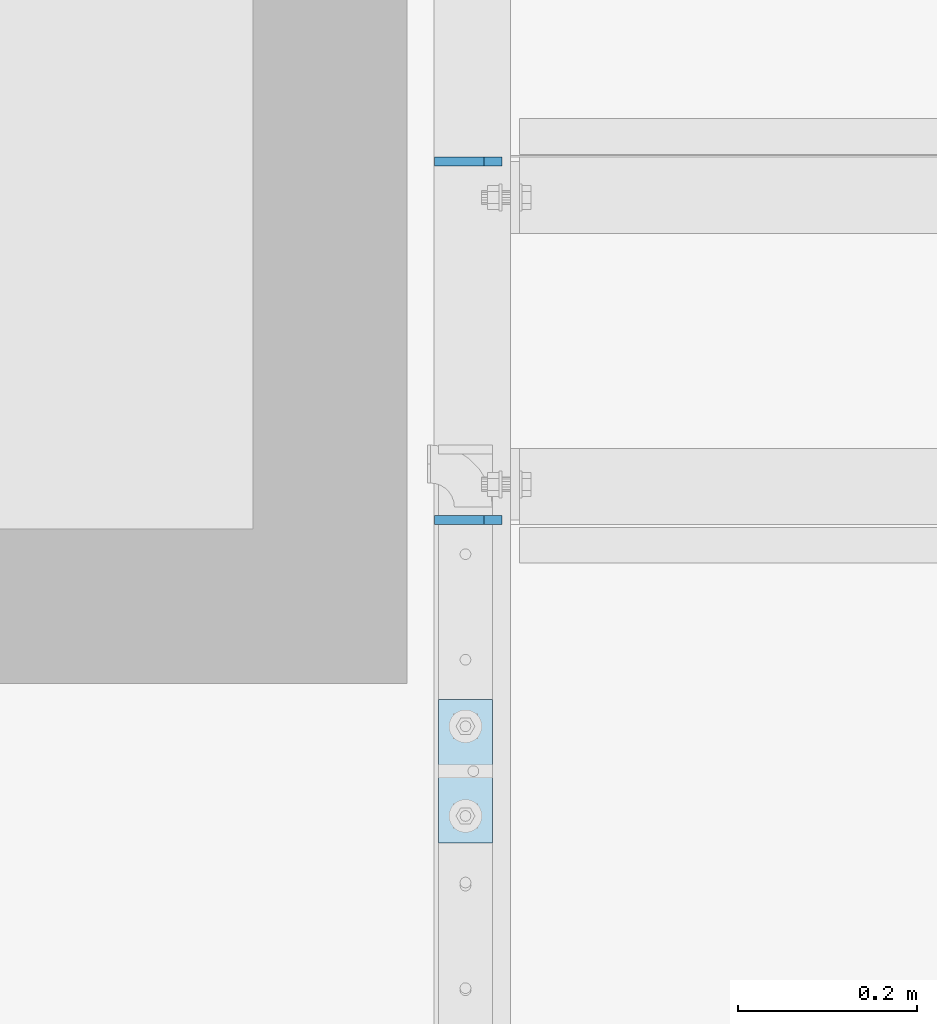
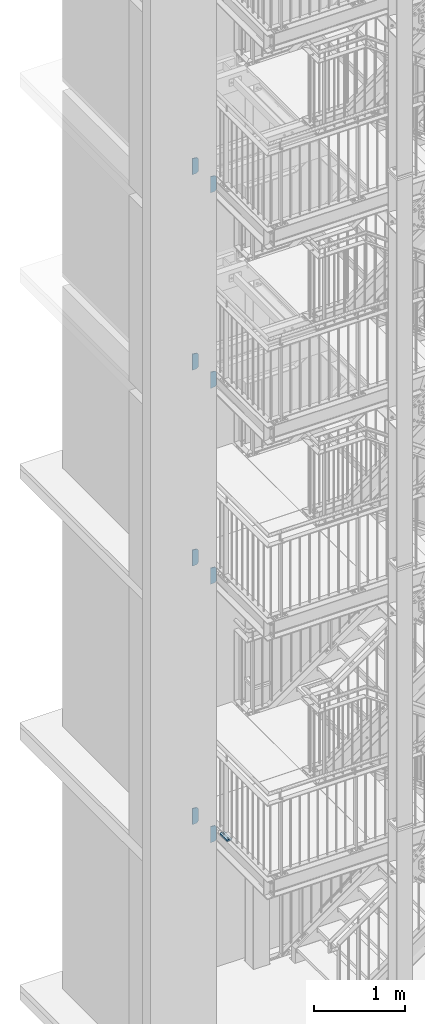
# One storey, part 159 of 831: 9 plates, 18 openings.
"""IFC2X3 building model written with IfcOpenShell, lengths in millimetres."""

from ifc_helpers import new_model, entity, si_unit, converted_unit, point, frame, frame_2d, origin, origin_with_axes, place, context, project, spatial, polyline, circle_curve, line_curve, trimmed, segment, composite_curve, outline, extrude, material, layer, layer_set, element, save


model = new_model("IFC2X3")

# Units and contexts
model_context = context("Model", 3, precision=1e-09, world=origin_with_axes())
ifc_project = project(units=[si_unit("LENGTHUNIT", "METRE", prefix="MILLI"), si_unit("AREAUNIT", "SQUARE_METRE"), si_unit("VOLUMEUNIT", "CUBIC_METRE"), converted_unit("PLANEANGLEUNIT", "DEGREE", entity("IfcPlaneAngleMeasure", 0.01745329), si_unit("PLANEANGLEUNIT", "RADIAN"), dimensions=[0, 0, 0, 0, 0, 0, 0])], contexts=[model_context])

# Site, building, storey
site_placement = place(None, origin_with_axes())
site = spatial("IfcSite", under=ifc_project, at=site_placement, Name="Site", CompositionType="ELEMENT")
building_placement = place(site_placement, origin_with_axes())
building = spatial("IfcBuilding", under=site, at=building_placement, Name="Struktur 1", CompositionType="ELEMENT")
storey_placement = place(building_placement, origin_with_axes())
storey = spatial("IfcBuildingStorey", under=building, at=storey_placement, Name="Default Storey", CompositionType="ELEMENT", Elevation=0.0)

# Plate, openings
ifc_material = material(Name="S235JR")
ifc_layer_1 = layer(ifc_material, 10.0)
ifc_layer_set_1 = layer_set([ifc_layer_1], Name="S235JR")
plate_1_placement = place(None, frame((3312.213402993, 5746.736971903, 3829.855161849), z_axis=(0.0, -1.0, 0.0), x_axis=(-0.996815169, 0.0, 0.079746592)))
plate_1 = element("IfcPlate", 1, at=plate_1_placement, inside=storey, material=ifc_layer_set_1, Name="Stiffener#1", ObjectType="Stiffener#1", context=model_context, shape_type="SweptSolid", body=[
    extrude(outline(polyline([(0.0, 0.0), (75.239625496, 0.0), (57.877952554, 217.017159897), (-16.404697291, 205.05517107), (0.0, 0.0)])), origin_with_axes(), (0.0, 0.0, 1.0), 10.0),
])
opening_1_placement = place(plate_1_placement, frame((0.0, 0.0, -0.01), z_axis=(0.0, 0.0, 1.0), x_axis=(1.0, 0.0, 0.0)))
element("IfcOpeningElement", 2, at=opening_1_placement, cuts=plate_1, ObjectType="Opening", context=model_context, shape_type="SweptSolid", body=[
    extrude(outline(polyline([(-16.404697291, 205.05517107), (-14.809765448, 185.118867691), (3.34092195, 208.23487558), (-16.404697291, 205.05517107)])), origin(), (0.0, 0.0, 1.0), 10.02),
])
opening_2_placement = place(plate_1_placement, frame((0.0, 0.0, -0.01), z_axis=(0.0, 0.0, 1.0), x_axis=(1.0, 0.0, 0.0)))
element("IfcOpeningElement", 3, at=opening_2_placement, cuts=plate_1, ObjectType="Opening", context=model_context, shape_type="SweptSolid", body=[
    extrude(outline(polyline([(0.0, 0.0), (20.0, 0.0), (-1.594931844, 19.936303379), (0.0, 0.0)])), origin(), (0.0, 0.0, 1.0), 10.02),
])

plate_2_placement = place(None, frame((3312.213402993, 6146.736971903, 3829.855161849), z_axis=(0.0, -1.0, 0.0), x_axis=(-0.996815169, 0.0, 0.079746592)))
plate_2 = element("IfcPlate", 4, at=plate_2_placement, inside=storey, material=ifc_layer_set_1, Name="Stiffener#1", ObjectType="Stiffener#1", context=model_context, shape_type="SweptSolid", body=[
    extrude(outline(polyline([(0.0, 0.0), (75.239625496, 0.0), (57.877952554, 217.017159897), (-16.404697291, 205.05517107), (0.0, 0.0)])), origin_with_axes(), (0.0, 0.0, 1.0), 10.0),
])
opening_3_placement = place(plate_2_placement, frame((0.0, 0.0, -0.01), z_axis=(0.0, 0.0, 1.0), x_axis=(1.0, 0.0, 0.0)))
element("IfcOpeningElement", 5, at=opening_3_placement, cuts=plate_2, ObjectType="Opening", context=model_context, shape_type="SweptSolid", body=[
    extrude(outline(polyline([(-16.404697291, 205.05517107), (-14.809765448, 185.118867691), (3.34092195, 208.23487558), (-16.404697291, 205.05517107)])), origin(), (0.0, 0.0, 1.0), 10.02),
])
opening_4_placement = place(plate_2_placement, frame((0.0, 0.0, -0.01), z_axis=(0.0, 0.0, 1.0), x_axis=(1.0, 0.0, 0.0)))
element("IfcOpeningElement", 6, at=opening_4_placement, cuts=plate_2, ObjectType="Opening", context=model_context, shape_type="SweptSolid", body=[
    extrude(outline(polyline([(0.0, 0.0), (20.0, 0.0), (-1.594931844, 19.936303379), (0.0, 0.0)])), origin(), (0.0, 0.0, 1.0), 10.02),
])

plate_3_placement = place(None, frame((3312.213402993, 5746.736971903, 7302.855161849), z_axis=(0.0, -1.0, 0.0), x_axis=(-0.996815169, 0.0, 0.079746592)))
plate_3 = element("IfcPlate", 7, at=plate_3_placement, inside=storey, material=ifc_layer_set_1, Name="Stiffener#1", ObjectType="Stiffener#1", context=model_context, shape_type="SweptSolid", body=[
    extrude(outline(polyline([(0.0, 0.0), (75.239625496, 0.0), (57.877952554, 217.017159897), (-16.404697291, 205.05517107), (0.0, 0.0)])), origin_with_axes(), (0.0, 0.0, 1.0), 10.0),
])
opening_5_placement = place(plate_3_placement, frame((0.0, 0.0, -0.01), z_axis=(0.0, 0.0, 1.0), x_axis=(1.0, 0.0, 0.0)))
element("IfcOpeningElement", 8, at=opening_5_placement, cuts=plate_3, ObjectType="Opening", context=model_context, shape_type="SweptSolid", body=[
    extrude(outline(polyline([(-16.404697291, 205.05517107), (-14.809765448, 185.118867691), (3.34092195, 208.23487558), (-16.404697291, 205.05517107)])), origin(), (0.0, 0.0, 1.0), 10.02),
])
opening_6_placement = place(plate_3_placement, frame((0.0, 0.0, -0.01), z_axis=(0.0, 0.0, 1.0), x_axis=(1.0, 0.0, 0.0)))
element("IfcOpeningElement", 9, at=opening_6_placement, cuts=plate_3, ObjectType="Opening", context=model_context, shape_type="SweptSolid", body=[
    extrude(outline(polyline([(0.0, 0.0), (20.0, 0.0), (-1.594931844, 19.936303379), (0.0, 0.0)])), origin(), (0.0, 0.0, 1.0), 10.02),
])

plate_4_placement = place(None, frame((3312.213402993, 6146.736971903, 7302.855161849), z_axis=(0.0, -1.0, 0.0), x_axis=(-0.996815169, 0.0, 0.079746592)))
plate_4 = element("IfcPlate", 10, at=plate_4_placement, inside=storey, material=ifc_layer_set_1, Name="Stiffener#1", ObjectType="Stiffener#1", context=model_context, shape_type="SweptSolid", body=[
    extrude(outline(polyline([(0.0, 0.0), (75.239625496, 0.0), (57.877952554, 217.017159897), (-16.404697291, 205.05517107), (0.0, 0.0)])), origin_with_axes(), (0.0, 0.0, 1.0), 10.0),
])
opening_7_placement = place(plate_4_placement, frame((0.0, 0.0, -0.01), z_axis=(0.0, 0.0, 1.0), x_axis=(1.0, 0.0, 0.0)))
element("IfcOpeningElement", 11, at=opening_7_placement, cuts=plate_4, ObjectType="Opening", context=model_context, shape_type="SweptSolid", body=[
    extrude(outline(polyline([(-16.404697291, 205.05517107), (-14.809765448, 185.118867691), (3.34092195, 208.23487558), (-16.404697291, 205.05517107)])), origin(), (0.0, 0.0, 1.0), 10.02),
])
opening_8_placement = place(plate_4_placement, frame((0.0, 0.0, -0.01), z_axis=(0.0, 0.0, 1.0), x_axis=(1.0, 0.0, 0.0)))
element("IfcOpeningElement", 12, at=opening_8_placement, cuts=plate_4, ObjectType="Opening", context=model_context, shape_type="SweptSolid", body=[
    extrude(outline(polyline([(0.0, 0.0), (20.0, 0.0), (-1.594931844, 19.936303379), (0.0, 0.0)])), origin(), (0.0, 0.0, 1.0), 10.02),
])

plate_5_placement = place(None, frame((3312.213402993, 6146.736971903, 9934.855161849), z_axis=(0.0, -1.0, 0.0), x_axis=(-0.996815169, 0.0, 0.079746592)))
plate_5 = element("IfcPlate", 13, at=plate_5_placement, inside=storey, material=ifc_layer_set_1, Name="Stiffener#1", ObjectType="Stiffener#1", context=model_context, shape_type="SweptSolid", body=[
    extrude(outline(polyline([(0.0, 0.0), (75.239625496, 0.0), (57.877952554, 217.017159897), (-16.404697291, 205.05517107), (0.0, 0.0)])), origin_with_axes(), (0.0, 0.0, 1.0), 10.0),
])
opening_9_placement = place(plate_5_placement, frame((0.0, 0.0, -0.01), z_axis=(0.0, 0.0, 1.0), x_axis=(1.0, 0.0, 0.0)))
element("IfcOpeningElement", 14, at=opening_9_placement, cuts=plate_5, ObjectType="Opening", context=model_context, shape_type="SweptSolid", body=[
    extrude(outline(polyline([(-16.404697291, 205.05517107), (-14.809765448, 185.118867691), (3.34092195, 208.23487558), (-16.404697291, 205.05517107)])), origin(), (0.0, 0.0, 1.0), 10.02),
])
opening_10_placement = place(plate_5_placement, frame((0.0, 0.0, -0.01), z_axis=(0.0, 0.0, 1.0), x_axis=(1.0, 0.0, 0.0)))
element("IfcOpeningElement", 15, at=opening_10_placement, cuts=plate_5, ObjectType="Opening", context=model_context, shape_type="SweptSolid", body=[
    extrude(outline(polyline([(0.0, 0.0), (20.0, 0.0), (-1.594931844, 19.936303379), (0.0, 0.0)])), origin(), (0.0, 0.0, 1.0), 10.02),
])

plate_6_placement = place(None, frame((3312.213402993, 5746.736971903, 9934.855161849), z_axis=(0.0, -1.0, 0.0), x_axis=(-0.996815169, 0.0, 0.079746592)))
plate_6 = element("IfcPlate", 16, at=plate_6_placement, inside=storey, material=ifc_layer_set_1, Name="Stiffener#1", ObjectType="Stiffener#1", context=model_context, shape_type="SweptSolid", body=[
    extrude(outline(polyline([(0.0, 0.0), (75.239625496, 0.0), (57.877952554, 217.017159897), (-16.404697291, 205.05517107), (0.0, 0.0)])), origin_with_axes(), (0.0, 0.0, 1.0), 10.0),
])
opening_11_placement = place(plate_6_placement, frame((0.0, 0.0, -0.01), z_axis=(0.0, 0.0, 1.0), x_axis=(1.0, 0.0, 0.0)))
element("IfcOpeningElement", 17, at=opening_11_placement, cuts=plate_6, ObjectType="Opening", context=model_context, shape_type="SweptSolid", body=[
    extrude(outline(polyline([(-16.404697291, 205.05517107), (-14.809765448, 185.118867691), (3.34092195, 208.23487558), (-16.404697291, 205.05517107)])), origin(), (0.0, 0.0, 1.0), 10.02),
])
opening_12_placement = place(plate_6_placement, frame((0.0, 0.0, -0.01), z_axis=(0.0, 0.0, 1.0), x_axis=(1.0, 0.0, 0.0)))
element("IfcOpeningElement", 18, at=opening_12_placement, cuts=plate_6, ObjectType="Opening", context=model_context, shape_type="SweptSolid", body=[
    extrude(outline(polyline([(0.0, 0.0), (20.0, 0.0), (-1.594931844, 19.936303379), (0.0, 0.0)])), origin(), (0.0, 0.0, 1.0), 10.02),
])

ifc_layer_2 = layer(ifc_material, 20.0)
ifc_layer_set_2 = layer_set([ifc_layer_2], Name="S235JR")
plate_7_placement = place(None, frame((3241.713402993, 5541.738971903, 3847.0), z_axis=(0.0, 0.0, 1.0), x_axis=(0.0, -1.0, 0.0)))
plate_7 = element("IfcPlate", 19, at=plate_7_placement, inside=storey, material=ifc_layer_set_2, Name="Plate#513", ObjectType="Plate#513", context=model_context, shape_type="SweptSolid", body=[
    extrude(outline(polyline([(0.0, 0.0), (160.0, 0.0), (160.0, 60.0), (0.0, 60.0), (0.0, 0.0)])), origin_with_axes(), (0.0, 0.0, 1.0), 20.0),
])
opening_13_placement = place(plate_7_placement, frame((38.0, 37.001, 20.5), z_axis=(0.0, 0.0, 1.0), x_axis=(-1.0, 0.0, 0.0)))
element("IfcOpeningElement", 20, at=opening_13_placement, cuts=plate_7, ObjectType="Opening", context=model_context, shape_type="SweptSolid", body=[
    extrude(outline(composite_curve([segment(trimmed(line_curve((0.0, 0.0), (1.0, 0.0), 16.0), [point((0.0, 0.0))], [point((16.0, 0.0))], True, "CARTESIAN"), True, "CONTINUOUS"), segment(trimmed(circle_curve(frame_2d((16.0, 7.001), x_axis=(1.0, 0.0)), 7.001), [point((16.0, 0.0))], [point((16.0, 14.002))], True, "CARTESIAN"), True, "CONTINUOUS"), segment(trimmed(line_curve((16.0, 14.002), (-1.0, 0.0), 16.0), [point((16.0, 14.002))], [point((0.0, 14.002))], True, "CARTESIAN"), True, "CONTINUOUS"), segment(trimmed(circle_curve(frame_2d((0.0, 7.001), x_axis=(1.0, 0.0)), 7.001), [point((0.0, 14.002))], [point((0.0, 0.0))], True, "CARTESIAN"), True, "CONTINUOUS")], self_intersect=False)), origin(), (0.0, 0.0, -1.0), 21.0),
])
opening_14_placement = place(plate_7_placement, frame((138.0, 37.001, 20.5), z_axis=(0.0, 0.0, 1.0), x_axis=(-1.0, 0.0, 0.0)))
element("IfcOpeningElement", 21, at=opening_14_placement, cuts=plate_7, ObjectType="Opening", context=model_context, shape_type="SweptSolid", body=[
    extrude(outline(composite_curve([segment(trimmed(line_curve((0.0, 0.0), (1.0, 0.0), 16.0), [point((0.0, 0.0))], [point((16.0, 0.0))], True, "CARTESIAN"), True, "CONTINUOUS"), segment(trimmed(circle_curve(frame_2d((16.0, 7.001), x_axis=(1.0, 0.0)), 7.001), [point((16.0, 0.0))], [point((16.0, 14.002))], True, "CARTESIAN"), True, "CONTINUOUS"), segment(trimmed(line_curve((16.0, 14.002), (-1.0, 0.0), 16.0), [point((16.0, 14.002))], [point((0.0, 14.002))], True, "CARTESIAN"), True, "CONTINUOUS"), segment(trimmed(circle_curve(frame_2d((0.0, 7.001), x_axis=(1.0, 0.0)), 7.001), [point((0.0, 14.002))], [point((0.0, 0.0))], True, "CARTESIAN"), True, "CONTINUOUS")], self_intersect=False)), origin(), (0.0, 0.0, -1.0), 21.0),
])

plate_8_placement = place(None, frame((3312.213402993, 6146.736971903, 12561.855161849), z_axis=(0.0, -1.0, 0.0), x_axis=(-0.996815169, 0.0, 0.079746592)))
plate_8 = element("IfcPlate", 22, at=plate_8_placement, inside=storey, material=ifc_layer_set_1, Name="Stiffener#1", ObjectType="Stiffener#1", context=model_context, shape_type="SweptSolid", body=[
    extrude(outline(polyline([(0.0, 0.0), (75.239625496, 0.0), (57.877952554, 217.017159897), (-16.404697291, 205.05517107), (0.0, 0.0)])), origin_with_axes(), (0.0, 0.0, 1.0), 10.0),
])
opening_15_placement = place(plate_8_placement, frame((0.0, 0.0, -0.01), z_axis=(0.0, 0.0, 1.0), x_axis=(1.0, 0.0, 0.0)))
element("IfcOpeningElement", 23, at=opening_15_placement, cuts=plate_8, ObjectType="Opening", context=model_context, shape_type="SweptSolid", body=[
    extrude(outline(polyline([(-16.404697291, 205.05517107), (-14.809765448, 185.118867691), (3.34092195, 208.23487558), (-16.404697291, 205.05517107)])), origin(), (0.0, 0.0, 1.0), 10.02),
])
opening_16_placement = place(plate_8_placement, frame((0.0, 0.0, -0.01), z_axis=(0.0, 0.0, 1.0), x_axis=(1.0, 0.0, 0.0)))
element("IfcOpeningElement", 24, at=opening_16_placement, cuts=plate_8, ObjectType="Opening", context=model_context, shape_type="SweptSolid", body=[
    extrude(outline(polyline([(0.0, 0.0), (20.0, 0.0), (-1.594931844, 19.936303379), (0.0, 0.0)])), origin(), (0.0, 0.0, 1.0), 10.02),
])

plate_9_placement = place(None, frame((3312.213402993, 5746.736971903, 12561.855161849), z_axis=(0.0, -1.0, 0.0), x_axis=(-0.996815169, 0.0, 0.079746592)))
plate_9 = element("IfcPlate", 25, at=plate_9_placement, inside=storey, material=ifc_layer_set_1, Name="Stiffener#1", ObjectType="Stiffener#1", context=model_context, shape_type="SweptSolid", body=[
    extrude(outline(polyline([(0.0, 0.0), (75.239625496, 0.0), (57.877952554, 217.017159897), (-16.404697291, 205.05517107), (0.0, 0.0)])), origin_with_axes(), (0.0, 0.0, 1.0), 10.0),
])
opening_17_placement = place(plate_9_placement, frame((0.0, 0.0, -0.01), z_axis=(0.0, 0.0, 1.0), x_axis=(1.0, 0.0, 0.0)))
element("IfcOpeningElement", 26, at=opening_17_placement, cuts=plate_9, ObjectType="Opening", context=model_context, shape_type="SweptSolid", body=[
    extrude(outline(polyline([(-16.404697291, 205.05517107), (-14.809765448, 185.118867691), (3.34092195, 208.23487558), (-16.404697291, 205.05517107)])), origin(), (0.0, 0.0, 1.0), 10.02),
])
opening_18_placement = place(plate_9_placement, frame((0.0, 0.0, -0.01), z_axis=(0.0, 0.0, 1.0), x_axis=(1.0, 0.0, 0.0)))
element("IfcOpeningElement", 27, at=opening_18_placement, cuts=plate_9, ObjectType="Opening", context=model_context, shape_type="SweptSolid", body=[
    extrude(outline(polyline([(0.0, 0.0), (20.0, 0.0), (-1.594931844, 19.936303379), (0.0, 0.0)])), origin(), (0.0, 0.0, 1.0), 10.02),
])

save(model, "model.ifc")
